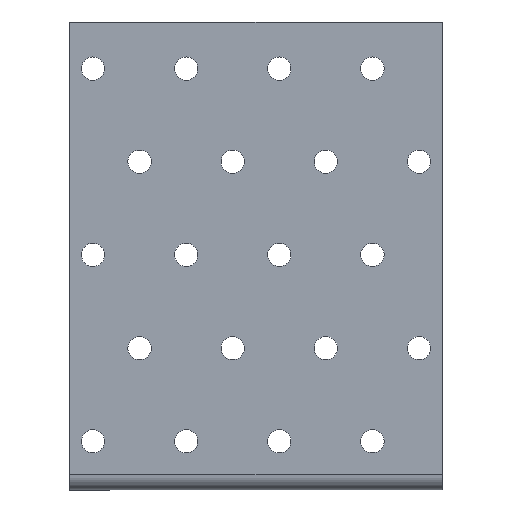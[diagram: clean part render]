
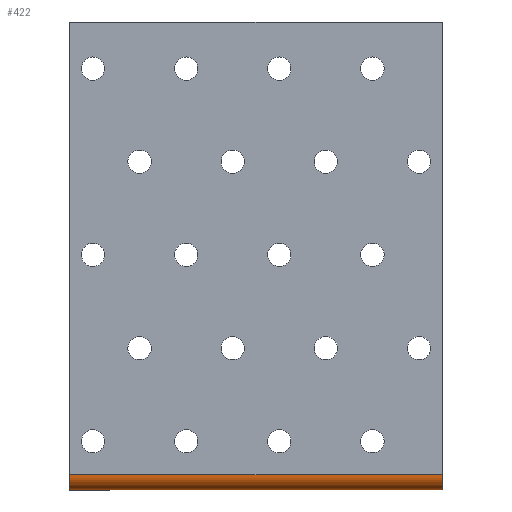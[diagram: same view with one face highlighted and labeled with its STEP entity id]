
A CAD part, front view. The second image highlights one B-rep face of the part: STEP entity #422.
In plain terms, the highlighted cylindrical face has radius 3.237 mm (diameter 6.473 mm), a partial arc.
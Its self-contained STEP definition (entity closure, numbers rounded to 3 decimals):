
#1 = LINE ( 'NONE', #3197, #897 ) ;
#5 = EDGE_CURVE ( 'NONE', #974, #2701, #316, .T. ) ;
#76 = FACE_OUTER_BOUND ( 'NONE', #1377, .T. ) ;
#193 = CYLINDRICAL_SURFACE ( 'NONE', #1616, 3.237 ) ;
#316 = CIRCLE ( 'NONE', #2100, 3.237 ) ;
#422 = ADVANCED_FACE ( 'NONE', ( #76 ), #193, .T. ) ;
#474 = AXIS2_PLACEMENT_3D ( 'NONE', #1010, #2829, #3079 ) ;
#832 = ORIENTED_EDGE ( 'NONE', *, *, #2174, .F. ) ;
#851 = CARTESIAN_POINT ( 'NONE',  ( -50.043, 0.737, -97.225 ) ) ;
#892 = VECTOR ( 'NONE', #2719, 1000. ) ;
#897 = VECTOR ( 'NONE', #2507, 1000. ) ;
#916 = CARTESIAN_POINT ( 'NONE',  ( 0., -2.5, -97.225 ) ) ;
#969 = CARTESIAN_POINT ( 'NONE',  ( 80., 0.737, -100.462 ) ) ;
#974 = VERTEX_POINT ( 'NONE', #1069 ) ;
#1010 = CARTESIAN_POINT ( 'NONE',  ( 80., 0.737, -97.225 ) ) ;
#1069 = CARTESIAN_POINT ( 'NONE',  ( 0., -2.5, -97.225 ) ) ;
#1227 = VERTEX_POINT ( 'NONE', #2777 ) ;
#1262 = CARTESIAN_POINT ( 'NONE',  ( 0., 0.737, -100.462 ) ) ;
#1340 = ORIENTED_EDGE ( 'NONE', *, *, #2466, .F. ) ;
#1359 = DIRECTION ( 'NONE',  ( 1., 0., 0. ) ) ;
#1377 = EDGE_LOOP ( 'NONE', ( #832, #1340, #2857, #2134 ) ) ;
#1397 = DIRECTION ( 'NONE',  ( 0., -1., 0. ) ) ;
#1616 = AXIS2_PLACEMENT_3D ( 'NONE', #851, #2423, #2433 ) ;
#1638 = EDGE_CURVE ( 'NONE', #2701, #2610, #1, .T. ) ;
#2023 = LINE ( 'NONE', #916, #892 ) ;
#2100 = AXIS2_PLACEMENT_3D ( 'NONE', #2925, #1359, #1397 ) ;
#2134 = ORIENTED_EDGE ( 'NONE', *, *, #1638, .T. ) ;
#2174 = EDGE_CURVE ( 'NONE', #1227, #2610, #2874, .T. ) ;
#2423 = DIRECTION ( 'NONE',  ( 1., 0., 0. ) ) ;
#2433 = DIRECTION ( 'NONE',  ( 0., 0., -1. ) ) ;
#2466 = EDGE_CURVE ( 'NONE', #974, #1227, #2023, .T. ) ;
#2507 = DIRECTION ( 'NONE',  ( 1., 0., 0. ) ) ;
#2610 = VERTEX_POINT ( 'NONE', #969 ) ;
#2701 = VERTEX_POINT ( 'NONE', #1262 ) ;
#2719 = DIRECTION ( 'NONE',  ( 1., 0., 0. ) ) ;
#2777 = CARTESIAN_POINT ( 'NONE',  ( 80., -2.5, -97.225 ) ) ;
#2829 = DIRECTION ( 'NONE',  ( 1., 0., 0. ) ) ;
#2857 = ORIENTED_EDGE ( 'NONE', *, *, #5, .T. ) ;
#2874 = CIRCLE ( 'NONE', #474, 3.237 ) ;
#2925 = CARTESIAN_POINT ( 'NONE',  ( 0., 0.737, -97.225 ) ) ;
#3079 = DIRECTION ( 'NONE',  ( 0., 0., 1. ) ) ;
#3197 = CARTESIAN_POINT ( 'NONE',  ( 0., 0.737, -100.462 ) ) ;
